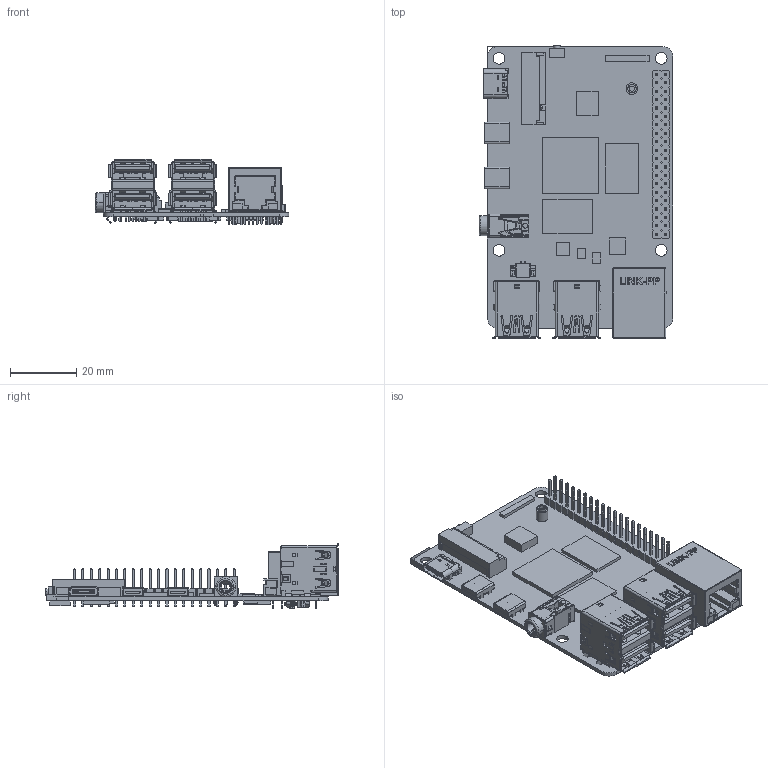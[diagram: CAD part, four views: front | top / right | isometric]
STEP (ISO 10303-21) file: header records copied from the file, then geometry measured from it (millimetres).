
FILE_DESCRIPTION((''),'2;1');
FILE_NAME('5A_PCBA_ASM','2023-07-03T21:00:47',('69420'),(''),'CREO PARAMETRIC BY PTC INC, 2023073','CREO PARAMETRIC BY PTC INC, 2023073','');
FILE_SCHEMA(('AUTOMOTIVE_DESIGN { 1 0 10303 214 1 1 1 1 }'));
Products named in the file (17): 5A_PCB; 5A_PCB_TOP; 5A_PCB_BOT; 484060001_2_2_1_1; USB_2X1_H_ASM_2_ASM_1_ASM_1_ASM; USB_2X1_H_ASM; LPJG0926HENL; 000_9; WT125AL-024C-0W_3_; S40BA_1_2_1_2_1_1; S40BB_ASM_1_ASM_2_ASM_1_ASM_1_ASM; CON75_P0M5_H4M2_KEY-E_ASM_2_ASM_ASM; CON75_P0M5_H4M2_KEY-E_ASM; PJ-322YBC_1_00; USB-16PIN-TYPEC_FIN_1_252_2_5; HDMI_MICO; 5A_PCBA_ASM
Assembly tree (18 placements, depth 5):
  5A_PCBA_ASM
    5A_PCB
    5A_PCB_TOP
    5A_PCB_BOT
    USB_2X1_H_ASM  x2
      USB_2X1_H_ASM_2_ASM_1_ASM_1_ASM
        484060001_2_2_1_1
    LPJG0926HENL
    000_9
    WT125AL-024C-0W_3_
    CON75_P0M5_H4M2_KEY-E_ASM
      CON75_P0M5_H4M2_KEY-E_ASM_2_ASM_ASM
        S40BB_ASM_1_ASM_2_ASM_1_ASM_1_ASM
          S40BA_1_2_1_2_1_1
    PJ-322YBC_1_00
    USB-16PIN-TYPEC_FIN_1_252_2_5
    HDMI_MICO  x2
Bounding box: 58.5 x 88.44 x 19.8 mm (x, y, z)
Volume: 17543 mm3; surface area: 24000.6 mm2
Topology: 12 solids, 20 shells, 5202 faces, 14337 edges, 9265 vertices
Faces by surface type: plane 3884, cylinder 1122, bspline 122, extrusion 25, sphere 20, torus 17, cone 9, revolution 3
Entity records: 141700 total; most frequent: CARTESIAN_POINT 27628, ORIENTED_EDGE 22304, DIRECTION 20374, EDGE_CURVE 11164, VECTOR 9139, LINE 9114, VERTEX_POINT 7219, AXIS2_PLACEMENT_3D 5616
